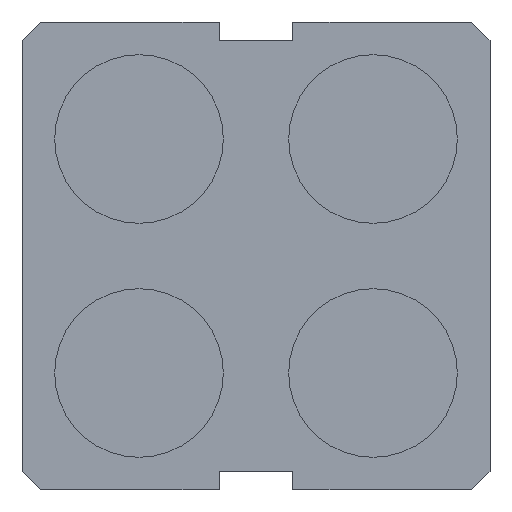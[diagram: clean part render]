
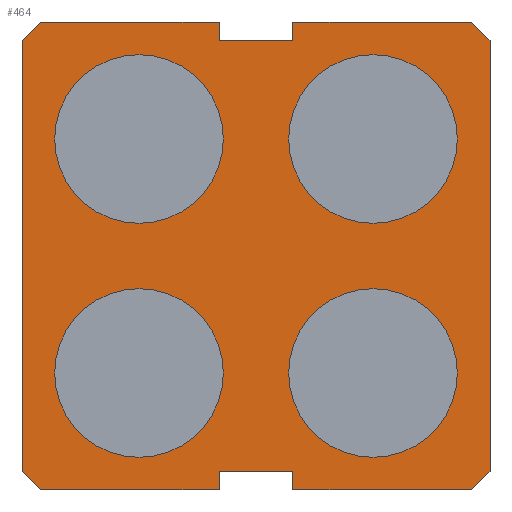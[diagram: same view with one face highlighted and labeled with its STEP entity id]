
A CAD part, left-side view. The second image highlights one B-rep face of the part: STEP entity #464.
In plain terms, the highlighted planar face has unit normal (-1, 0, 0).
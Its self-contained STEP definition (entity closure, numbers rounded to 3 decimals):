
#1=CARTESIAN_POINT('',(0.,1.27,-1.27));
#2=DIRECTION('',(-1.,0.,0.));
#3=DIRECTION('',(0.,-1.,0.));
#4=AXIS2_PLACEMENT_3D('',#1,#2,#3);
#6=CARTESIAN_POINT('',(0.,1.27,-1.27));
#7=DIRECTION('',(-1.,0.,0.));
#8=DIRECTION('',(0.,1.,0.));
#9=AXIS2_PLACEMENT_3D('',#6,#7,#8);
#11=CARTESIAN_POINT('',(0.,1.27,1.27));
#12=DIRECTION('',(-1.,0.,0.));
#13=DIRECTION('',(0.,-1.,0.));
#14=AXIS2_PLACEMENT_3D('',#11,#12,#13);
#16=CARTESIAN_POINT('',(0.,1.27,1.27));
#17=DIRECTION('',(-1.,0.,0.));
#18=DIRECTION('',(0.,1.,0.));
#19=AXIS2_PLACEMENT_3D('',#16,#17,#18);
#21=CARTESIAN_POINT('',(0.,-1.27,1.27));
#22=DIRECTION('',(-1.,0.,0.));
#23=DIRECTION('',(0.,-1.,0.));
#24=AXIS2_PLACEMENT_3D('',#21,#22,#23);
#26=CARTESIAN_POINT('',(0.,-1.27,1.27));
#27=DIRECTION('',(-1.,0.,0.));
#28=DIRECTION('',(0.,1.,0.));
#29=AXIS2_PLACEMENT_3D('',#26,#27,#28);
#31=CARTESIAN_POINT('',(0.,-1.27,-1.27));
#32=DIRECTION('',(-1.,0.,0.));
#33=DIRECTION('',(0.,-1.,0.));
#34=AXIS2_PLACEMENT_3D('',#31,#32,#33);
#36=CARTESIAN_POINT('',(0.,-1.27,-1.27));
#37=DIRECTION('',(-1.,0.,0.));
#38=DIRECTION('',(0.,1.,0.));
#39=AXIS2_PLACEMENT_3D('',#36,#37,#38);
#41=DIRECTION('',(0.,0.707,0.707));
#42=VECTOR('',#41,0.283);
#43=CARTESIAN_POINT('',(0.,2.34,-2.54));
#44=LINE('',#43,#42);
#45=DIRECTION('',(0.,0.,1.));
#46=VECTOR('',#45,4.68);
#47=CARTESIAN_POINT('',(0.,2.54,-2.34));
#48=LINE('',#47,#46);
#49=DIRECTION('',(0.,-0.707,0.707));
#50=VECTOR('',#49,0.283);
#51=CARTESIAN_POINT('',(0.,2.54,2.34));
#52=LINE('',#51,#50);
#53=DIRECTION('',(0.,-1.,0.));
#54=VECTOR('',#53,1.94);
#55=CARTESIAN_POINT('',(0.,2.34,2.54));
#56=LINE('',#55,#54);
#57=DIRECTION('',(0.,0.,-1.));
#58=VECTOR('',#57,0.2);
#59=CARTESIAN_POINT('',(0.,0.4,2.54));
#60=LINE('',#59,#58);
#61=DIRECTION('',(0.,-1.,0.));
#62=VECTOR('',#61,0.8);
#63=CARTESIAN_POINT('',(0.,0.4,2.34));
#64=LINE('',#63,#62);
#65=DIRECTION('',(0.,0.,1.));
#66=VECTOR('',#65,0.2);
#67=CARTESIAN_POINT('',(0.,-0.4,2.34));
#68=LINE('',#67,#66);
#69=DIRECTION('',(0.,-1.,0.));
#70=VECTOR('',#69,1.94);
#71=CARTESIAN_POINT('',(0.,-0.4,2.54));
#72=LINE('',#71,#70);
#73=DIRECTION('',(0.,-0.707,-0.707));
#74=VECTOR('',#73,0.283);
#75=CARTESIAN_POINT('',(0.,-2.34,2.54));
#76=LINE('',#75,#74);
#77=DIRECTION('',(0.,0.,-1.));
#78=VECTOR('',#77,4.68);
#79=CARTESIAN_POINT('',(0.,-2.54,2.34));
#80=LINE('',#79,#78);
#81=DIRECTION('',(0.,0.707,-0.707));
#82=VECTOR('',#81,0.283);
#83=CARTESIAN_POINT('',(0.,-2.54,-2.34));
#84=LINE('',#83,#82);
#85=DIRECTION('',(0.,1.,0.));
#86=VECTOR('',#85,1.94);
#87=CARTESIAN_POINT('',(0.,-2.34,-2.54));
#88=LINE('',#87,#86);
#89=DIRECTION('',(0.,0.,1.));
#90=VECTOR('',#89,0.2);
#91=CARTESIAN_POINT('',(0.,-0.4,-2.54));
#92=LINE('',#91,#90);
#93=DIRECTION('',(0.,1.,0.));
#94=VECTOR('',#93,0.8);
#95=CARTESIAN_POINT('',(0.,-0.4,-2.34));
#96=LINE('',#95,#94);
#97=DIRECTION('',(0.,0.,-1.));
#98=VECTOR('',#97,0.2);
#99=CARTESIAN_POINT('',(0.,0.4,-2.34));
#100=LINE('',#99,#98);
#101=DIRECTION('',(0.,1.,0.));
#102=VECTOR('',#101,1.94);
#103=CARTESIAN_POINT('',(0.,0.4,-2.54));
#104=LINE('',#103,#102);
#305=CARTESIAN_POINT('',(0.,0.67,-1.27));
#306=CARTESIAN_POINT('',(0.,1.87,-1.27));
#307=VERTEX_POINT('',#305);
#308=VERTEX_POINT('',#306);
#309=CARTESIAN_POINT('',(0.,0.67,1.27));
#310=CARTESIAN_POINT('',(0.,1.87,1.27));
#311=VERTEX_POINT('',#309);
#312=VERTEX_POINT('',#310);
#313=CARTESIAN_POINT('',(0.,-1.87,1.27));
#314=CARTESIAN_POINT('',(0.,-0.67,1.27));
#315=VERTEX_POINT('',#313);
#316=VERTEX_POINT('',#314);
#317=CARTESIAN_POINT('',(0.,-1.87,-1.27));
#318=CARTESIAN_POINT('',(0.,-0.67,-1.27));
#319=VERTEX_POINT('',#317);
#320=VERTEX_POINT('',#318);
#321=CARTESIAN_POINT('',(0.,2.34,-2.54));
#322=CARTESIAN_POINT('',(0.,2.54,-2.34));
#323=VERTEX_POINT('',#321);
#324=VERTEX_POINT('',#322);
#325=CARTESIAN_POINT('',(0.,2.54,2.34));
#326=VERTEX_POINT('',#325);
#327=CARTESIAN_POINT('',(0.,2.34,2.54));
#328=VERTEX_POINT('',#327);
#329=CARTESIAN_POINT('',(0.,0.4,2.54));
#330=VERTEX_POINT('',#329);
#331=CARTESIAN_POINT('',(0.,0.4,2.34));
#332=VERTEX_POINT('',#331);
#333=CARTESIAN_POINT('',(0.,-0.4,2.34));
#334=VERTEX_POINT('',#333);
#335=CARTESIAN_POINT('',(0.,-0.4,2.54));
#336=VERTEX_POINT('',#335);
#337=CARTESIAN_POINT('',(0.,-2.34,2.54));
#338=VERTEX_POINT('',#337);
#339=CARTESIAN_POINT('',(0.,-2.54,2.34));
#340=VERTEX_POINT('',#339);
#341=CARTESIAN_POINT('',(0.,-2.54,-2.34));
#342=VERTEX_POINT('',#341);
#343=CARTESIAN_POINT('',(0.,-2.34,-2.54));
#344=VERTEX_POINT('',#343);
#345=CARTESIAN_POINT('',(0.,-0.4,-2.54));
#346=VERTEX_POINT('',#345);
#347=CARTESIAN_POINT('',(0.,-0.4,-2.34));
#348=VERTEX_POINT('',#347);
#349=CARTESIAN_POINT('',(0.,0.4,-2.34));
#350=VERTEX_POINT('',#349);
#351=CARTESIAN_POINT('',(0.,0.4,-2.54));
#352=VERTEX_POINT('',#351);
#401=CARTESIAN_POINT('',(0.,0.,0.));
#402=DIRECTION('',(1.,0.,0.));
#403=DIRECTION('',(0.,-1.,0.));
#404=AXIS2_PLACEMENT_3D('',#401,#402,#403);
#405=PLANE('',#404);
#407=ORIENTED_EDGE('',*,*,#406,.T.);
#409=ORIENTED_EDGE('',*,*,#408,.T.);
#411=ORIENTED_EDGE('',*,*,#410,.T.);
#413=ORIENTED_EDGE('',*,*,#412,.T.);
#415=ORIENTED_EDGE('',*,*,#414,.T.);
#417=ORIENTED_EDGE('',*,*,#416,.T.);
#419=ORIENTED_EDGE('',*,*,#418,.T.);
#421=ORIENTED_EDGE('',*,*,#420,.T.);
#423=ORIENTED_EDGE('',*,*,#422,.T.);
#425=ORIENTED_EDGE('',*,*,#424,.T.);
#427=ORIENTED_EDGE('',*,*,#426,.T.);
#429=ORIENTED_EDGE('',*,*,#428,.T.);
#431=ORIENTED_EDGE('',*,*,#430,.T.);
#433=ORIENTED_EDGE('',*,*,#432,.T.);
#435=ORIENTED_EDGE('',*,*,#434,.T.);
#437=ORIENTED_EDGE('',*,*,#436,.T.);
#438=EDGE_LOOP('',(#407,#409,#411,#413,#415,#417,#419,#421,#423,#425,#427,#429,
#431,#433,#435,#437));
#439=FACE_OUTER_BOUND('',#438,.F.);
#441=ORIENTED_EDGE('',*,*,#440,.T.);
#443=ORIENTED_EDGE('',*,*,#442,.T.);
#444=EDGE_LOOP('',(#441,#443));
#445=FACE_BOUND('',#444,.F.);
#447=ORIENTED_EDGE('',*,*,#446,.T.);
#449=ORIENTED_EDGE('',*,*,#448,.T.);
#450=EDGE_LOOP('',(#447,#449));
#451=FACE_BOUND('',#450,.F.);
#453=ORIENTED_EDGE('',*,*,#452,.T.);
#455=ORIENTED_EDGE('',*,*,#454,.T.);
#456=EDGE_LOOP('',(#453,#455));
#457=FACE_BOUND('',#456,.F.);
#459=ORIENTED_EDGE('',*,*,#458,.T.);
#461=ORIENTED_EDGE('',*,*,#460,.T.);
#462=EDGE_LOOP('',(#459,#461));
#463=FACE_BOUND('',#462,.F.);
#464=ADVANCED_FACE('',(#439,#445,#451,#457,#463),#405,.F.);
#5=CIRCLE('',#4,0.6);
#10=CIRCLE('',#9,0.6);
#15=CIRCLE('',#14,0.6);
#20=CIRCLE('',#19,0.6);
#25=CIRCLE('',#24,0.6);
#30=CIRCLE('',#29,0.6);
#35=CIRCLE('',#34,0.6);
#40=CIRCLE('',#39,0.6);
#406=EDGE_CURVE('',#323,#324,#44,.T.);
#408=EDGE_CURVE('',#324,#326,#48,.T.);
#410=EDGE_CURVE('',#326,#328,#52,.T.);
#412=EDGE_CURVE('',#328,#330,#56,.T.);
#414=EDGE_CURVE('',#330,#332,#60,.T.);
#416=EDGE_CURVE('',#332,#334,#64,.T.);
#418=EDGE_CURVE('',#334,#336,#68,.T.);
#420=EDGE_CURVE('',#336,#338,#72,.T.);
#422=EDGE_CURVE('',#338,#340,#76,.T.);
#424=EDGE_CURVE('',#340,#342,#80,.T.);
#426=EDGE_CURVE('',#342,#344,#84,.T.);
#428=EDGE_CURVE('',#344,#346,#88,.T.);
#430=EDGE_CURVE('',#346,#348,#92,.T.);
#432=EDGE_CURVE('',#348,#350,#96,.T.);
#434=EDGE_CURVE('',#350,#352,#100,.T.);
#436=EDGE_CURVE('',#352,#323,#104,.T.);
#440=EDGE_CURVE('',#311,#312,#15,.T.);
#442=EDGE_CURVE('',#312,#311,#20,.T.);
#446=EDGE_CURVE('',#315,#316,#25,.T.);
#448=EDGE_CURVE('',#316,#315,#30,.T.);
#452=EDGE_CURVE('',#319,#320,#35,.T.);
#454=EDGE_CURVE('',#320,#319,#40,.T.);
#458=EDGE_CURVE('',#307,#308,#5,.T.);
#460=EDGE_CURVE('',#308,#307,#10,.T.);
